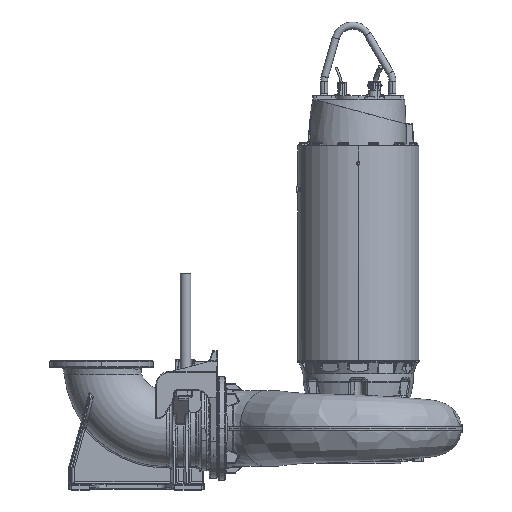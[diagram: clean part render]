
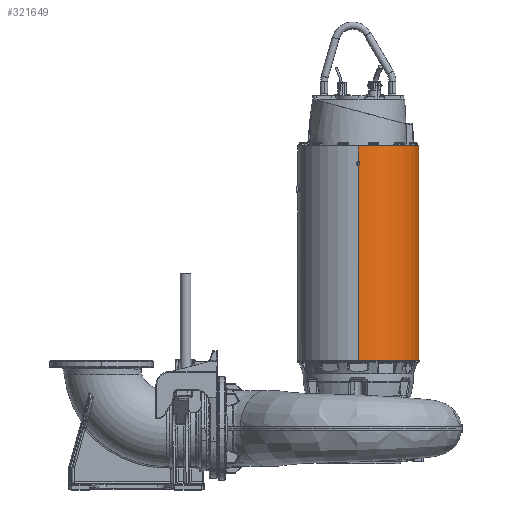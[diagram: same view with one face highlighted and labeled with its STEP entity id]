
A CAD part, top view. The second image highlights one B-rep face of the part: STEP entity #321649.
In plain terms, the highlighted cylindrical face has radius 344 mm (diameter 688 mm), a partial arc.
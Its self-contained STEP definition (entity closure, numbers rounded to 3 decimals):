
#272 = ORIENTED_EDGE ( 'NONE', *, *, #122683, .T. ) ;
#903 = ORIENTED_EDGE ( 'NONE', *, *, #11205, .F. ) ;
#4661 = ORIENTED_EDGE ( 'NONE', *, *, #36623, .F. ) ;
#9751 = CARTESIAN_POINT ( 'NONE',  ( 0., 1094.03, -344. ) ) ;
#9940 = DIRECTION ( 'NONE',  ( 0., -1., 0. ) ) ;
#10207 = VECTOR ( 'NONE', #241808, 1000. ) ;
#11205 = EDGE_CURVE ( 'NONE', #63505, #13878, #45868, .T. ) ;
#11871 = LINE ( 'NONE', #111987, #78377 ) ;
#12542 = DIRECTION ( 'NONE',  ( 0., -1., 0. ) ) ;
#13878 = VERTEX_POINT ( 'NONE', #247303 ) ;
#14220 = CARTESIAN_POINT ( 'NONE',  ( 6.334, 1097.687, -343.956 ) ) ;
#28152 = LINE ( 'NONE', #105291, #219729 ) ;
#36190 = DIRECTION ( 'NONE',  ( 0., 0., -1. ) ) ;
#36623 = EDGE_CURVE ( 'NONE', #304656, #132585, #132298, .T. ) ;
#39627 = VERTEX_POINT ( 'NONE', #193902 ) ;
#40968 = CARTESIAN_POINT ( 'NONE',  ( 0., 0., 344. ) ) ;
#42812 = EDGE_CURVE ( 'NONE', #13878, #142710, #28152, .T. ) ;
#45868 =( BOUNDED_CURVE ( )  B_SPLINE_CURVE ( 3, ( #108544, #107491, #105740, #105441 ),
 .UNSPECIFIED., .F., .F. ) 
 B_SPLINE_CURVE_WITH_KNOTS ( ( 4, 4 ),
 ( 1.571, 1.598 ),
 .UNSPECIFIED. ) 
 CURVE ( )  GEOMETRIC_REPRESENTATION_ITEM ( )  RATIONAL_B_SPLINE_CURVE ( ( 1., 1., 1., 1. ) ) 
 REPRESENTATION_ITEM ( '' )  );
#47103 = CARTESIAN_POINT ( 'NONE',  ( 0., 1205., -344. ) ) ;
#49284 = AXIS2_PLACEMENT_3D ( 'NONE', #209999, #9940, #36190 ) ;
#59899 = CARTESIAN_POINT ( 'NONE',  ( 0., -20., -344. ) ) ;
#61861 = CARTESIAN_POINT ( 'NONE',  ( 6.334, 1112.313, 343.956 ) ) ;
#63505 = VERTEX_POINT ( 'NONE', #203319 ) ;
#65325 = VERTEX_POINT ( 'NONE', #209486 ) ;
#67052 = CARTESIAN_POINT ( 'NONE',  ( 9.5, 1345.349, 343.869 ) ) ;
#67727 = VERTEX_POINT ( 'NONE', #47103 ) ;
#70131 = EDGE_CURVE ( 'NONE', #132585, #110474, #283166, .T. ) ;
#72015 = VECTOR ( 'NONE', #12542, 1000. ) ;
#78377 = VECTOR ( 'NONE', #210457, 1000. ) ;
#78967 = EDGE_LOOP ( 'NONE', ( #117536, #272, #113734, #320699, #270079, #266372, #274166, #4661, #204093, #211983, #903, #141622 ) ) ;
#79862 = LINE ( 'NONE', #311710, #72015 ) ;
#83012 = CARTESIAN_POINT ( 'NONE',  ( 0., 0., -344. ) ) ;
#89689 = CARTESIAN_POINT ( 'NONE',  ( 9.5, 1099.515, -343.869 ) ) ;
#90594 = CARTESIAN_POINT ( 'NONE',  ( 6.334, 1097.687, 343.956 ) ) ;
#93116 = EDGE_CURVE ( 'NONE', #142710, #304656, #96410, .T. ) ;
#96410 =( BOUNDED_CURVE ( )  B_SPLINE_CURVE ( 3, ( #89689, #14220, #114745, #289404 ),
 .UNSPECIFIED., .F., .T. ) 
 B_SPLINE_CURVE_WITH_KNOTS ( ( 4, 4 ),
 ( 1.543, 1.571 ),
 .UNSPECIFIED. ) 
 CURVE ( )  GEOMETRIC_REPRESENTATION_ITEM ( )  RATIONAL_B_SPLINE_CURVE ( ( 1., 1., 1., 1. ) ) 
 REPRESENTATION_ITEM ( '' )  );
#99671 = AXIS2_PLACEMENT_3D ( 'NONE', #295362, #145883, #320404 ) ;
#105291 = CARTESIAN_POINT ( 'NONE',  ( 9.5, 1345.349, -343.869 ) ) ;
#105441 = CARTESIAN_POINT ( 'NONE',  ( 9.5, 1110.485, -343.869 ) ) ;
#105740 = CARTESIAN_POINT ( 'NONE',  ( 6.334, 1112.313, -343.956 ) ) ;
#106509 = CARTESIAN_POINT ( 'NONE',  ( 0., -20., 0. ) ) ;
#107491 = CARTESIAN_POINT ( 'NONE',  ( 3.167, 1114.141, -344. ) ) ;
#108544 = CARTESIAN_POINT ( 'NONE',  ( 0., 1115.97, -344. ) ) ;
#110474 = VERTEX_POINT ( 'NONE', #150428 ) ;
#111987 = CARTESIAN_POINT ( 'NONE',  ( 0., 0., 344. ) ) ;
#113003 =( BOUNDED_CURVE ( )  B_SPLINE_CURVE ( 3, ( #185336, #186403, #61861, #236597 ),
 .UNSPECIFIED., .F., .F. ) 
 B_SPLINE_CURVE_WITH_KNOTS ( ( 4, 4 ),
 ( 1.571, 1.598 ),
 .UNSPECIFIED. ) 
 CURVE ( )  GEOMETRIC_REPRESENTATION_ITEM ( )  RATIONAL_B_SPLINE_CURVE ( ( 1., 1., 1., 1. ) ) 
 REPRESENTATION_ITEM ( '' )  );
#113734 = ORIENTED_EDGE ( 'NONE', *, *, #253914, .T. ) ;
#114745 = CARTESIAN_POINT ( 'NONE',  ( 3.167, 1095.859, -344. ) ) ;
#116331 = DIRECTION ( 'NONE',  ( 0., -1., 0. ) ) ;
#117536 = ORIENTED_EDGE ( 'NONE', *, *, #189727, .T. ) ;
#122683 = EDGE_CURVE ( 'NONE', #189508, #39627, #11871, .T. ) ;
#131368 = EDGE_CURVE ( 'NONE', #65325, #206158, #194188, .T. ) ;
#131567 = DIRECTION ( 'NONE',  ( 1., 0., 0. ) ) ;
#132298 = LINE ( 'NONE', #83012, #265181 ) ;
#132585 = VERTEX_POINT ( 'NONE', #59899 ) ;
#140774 = CARTESIAN_POINT ( 'NONE',  ( 0., 1094.03, 344. ) ) ;
#141622 = ORIENTED_EDGE ( 'NONE', *, *, #255377, .F. ) ;
#142710 = VERTEX_POINT ( 'NONE', #273393 ) ;
#143150 = LINE ( 'NONE', #67052, #10207 ) ;
#145760 = CARTESIAN_POINT ( 'NONE',  ( 0., 1094.03, 344. ) ) ;
#145883 = DIRECTION ( 'NONE',  ( 0., -1., 0. ) ) ;
#150428 = CARTESIAN_POINT ( 'NONE',  ( 0., -20., 344. ) ) ;
#163978 = CYLINDRICAL_SURFACE ( 'NONE', #49284, 344. ) ;
#180659 = DIRECTION ( 'NONE',  ( 0., -1., 0. ) ) ;
#183452 = DIRECTION ( 'NONE',  ( 0., -1., 0. ) ) ;
#185336 = CARTESIAN_POINT ( 'NONE',  ( 0., 1115.97, 344. ) ) ;
#186403 = CARTESIAN_POINT ( 'NONE',  ( 3.167, 1114.141, 344. ) ) ;
#189508 = VERTEX_POINT ( 'NONE', #288962 ) ;
#189727 = EDGE_CURVE ( 'NONE', #67727, #189508, #259719, .T. ) ;
#193902 = CARTESIAN_POINT ( 'NONE',  ( 0., 1115.97, 344. ) ) ;
#194188 =( BOUNDED_CURVE ( )  B_SPLINE_CURVE ( 3, ( #265253, #90594, #290267, #140774 ),
 .UNSPECIFIED., .F., .T. ) 
 B_SPLINE_CURVE_WITH_KNOTS ( ( 4, 4 ),
 ( 1.543, 1.571 ),
 .UNSPECIFIED. ) 
 CURVE ( )  GEOMETRIC_REPRESENTATION_ITEM ( )  RATIONAL_B_SPLINE_CURVE ( ( 1., 1., 1., 1. ) ) 
 REPRESENTATION_ITEM ( '' )  );
#195352 = FACE_OUTER_BOUND ( 'NONE', #78967, .T. ) ;
#203319 = CARTESIAN_POINT ( 'NONE',  ( 0., 1115.97, -344. ) ) ;
#203800 = VECTOR ( 'NONE', #116331, 1000. ) ;
#204093 = ORIENTED_EDGE ( 'NONE', *, *, #93116, .F. ) ;
#206158 = VERTEX_POINT ( 'NONE', #145760 ) ;
#207800 = AXIS2_PLACEMENT_3D ( 'NONE', #106509, #281195, #131567 ) ;
#209486 = CARTESIAN_POINT ( 'NONE',  ( 9.5, 1099.515, 343.869 ) ) ;
#209999 = CARTESIAN_POINT ( 'NONE',  ( 0., 0., 0. ) ) ;
#210457 = DIRECTION ( 'NONE',  ( 0., -1., 0. ) ) ;
#211983 = ORIENTED_EDGE ( 'NONE', *, *, #42812, .F. ) ;
#219729 = VECTOR ( 'NONE', #180659, 1000. ) ;
#236597 = CARTESIAN_POINT ( 'NONE',  ( 9.5, 1110.485, 343.869 ) ) ;
#241808 = DIRECTION ( 'NONE',  ( 0., -1., 0. ) ) ;
#247303 = CARTESIAN_POINT ( 'NONE',  ( 9.5, 1110.485, -343.869 ) ) ;
#253914 = EDGE_CURVE ( 'NONE', #39627, #282796, #113003, .T. ) ;
#255377 = EDGE_CURVE ( 'NONE', #67727, #63505, #79862, .T. ) ;
#259719 = CIRCLE ( 'NONE', #99671, 344. ) ;
#265181 = VECTOR ( 'NONE', #183452, 1000. ) ;
#265253 = CARTESIAN_POINT ( 'NONE',  ( 9.5, 1099.515, 343.869 ) ) ;
#265354 = EDGE_CURVE ( 'NONE', #282796, #65325, #143150, .T. ) ;
#266372 = ORIENTED_EDGE ( 'NONE', *, *, #321064, .T. ) ;
#270079 = ORIENTED_EDGE ( 'NONE', *, *, #131368, .T. ) ;
#270105 = LINE ( 'NONE', #40968, #203800 ) ;
#273393 = CARTESIAN_POINT ( 'NONE',  ( 9.5, 1099.515, -343.869 ) ) ;
#274166 = ORIENTED_EDGE ( 'NONE', *, *, #70131, .F. ) ;
#281195 = DIRECTION ( 'NONE',  ( 0., -1., 0. ) ) ;
#282796 = VERTEX_POINT ( 'NONE', #314005 ) ;
#283166 = CIRCLE ( 'NONE', #207800, 344. ) ;
#288962 = CARTESIAN_POINT ( 'NONE',  ( 0., 1205., 344. ) ) ;
#289404 = CARTESIAN_POINT ( 'NONE',  ( 0., 1094.03, -344. ) ) ;
#290267 = CARTESIAN_POINT ( 'NONE',  ( 3.167, 1095.859, 344. ) ) ;
#295362 = CARTESIAN_POINT ( 'NONE',  ( 0., 1205., 0. ) ) ;
#304656 = VERTEX_POINT ( 'NONE', #9751 ) ;
#311710 = CARTESIAN_POINT ( 'NONE',  ( 0., 0., -344. ) ) ;
#314005 = CARTESIAN_POINT ( 'NONE',  ( 9.5, 1110.485, 343.869 ) ) ;
#320404 = DIRECTION ( 'NONE',  ( 0., 0., -1. ) ) ;
#320699 = ORIENTED_EDGE ( 'NONE', *, *, #265354, .T. ) ;
#321064 = EDGE_CURVE ( 'NONE', #206158, #110474, #270105, .T. ) ;
#321649 = ADVANCED_FACE ( 'NONE', ( #195352 ), #163978, .T. ) ;
